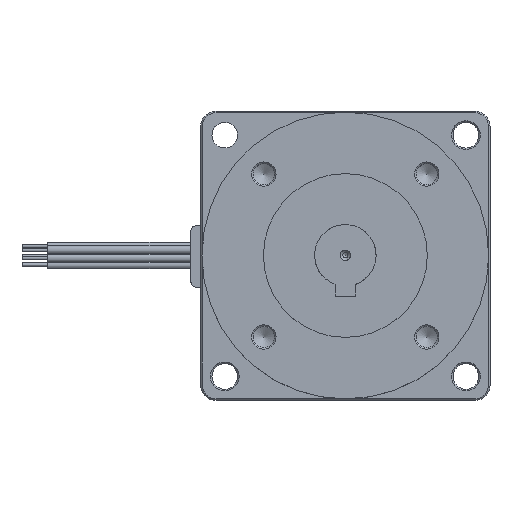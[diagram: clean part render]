
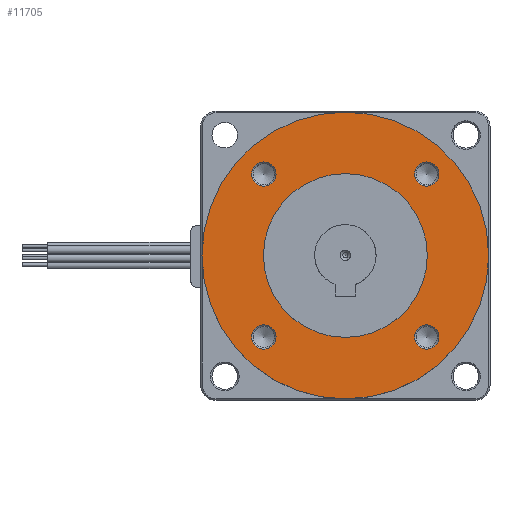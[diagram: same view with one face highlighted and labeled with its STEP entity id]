
A CAD part, top view. The second image highlights one B-rep face of the part: STEP entity #11705.
In plain terms, the highlighted planar face has unit normal (0, 0, 1).
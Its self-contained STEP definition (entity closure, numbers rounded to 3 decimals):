
#318=CIRCLE('',#12284,2.367);
#319=CIRCLE('',#12286,28.);
#320=CIRCLE('',#12287,2.367);
#321=CIRCLE('',#12288,2.367);
#322=CIRCLE('',#12289,16.);
#323=CIRCLE('',#12290,2.367);
#565=FACE_BOUND('',#1849,.T.);
#566=FACE_BOUND('',#1850,.T.);
#567=FACE_BOUND('',#1851,.T.);
#568=FACE_BOUND('',#1852,.T.);
#569=FACE_BOUND('',#1853,.T.);
#1133=FACE_OUTER_BOUND('',#1848,.T.);
#1848=EDGE_LOOP('',(#9536));
#1849=EDGE_LOOP('',(#9537));
#1850=EDGE_LOOP('',(#9538));
#1851=EDGE_LOOP('',(#9539));
#1852=EDGE_LOOP('',(#9540));
#1853=EDGE_LOOP('',(#9541));
#5505=VERTEX_POINT('',#19448);
#5506=VERTEX_POINT('',#19451);
#5507=VERTEX_POINT('',#19453);
#5508=VERTEX_POINT('',#19455);
#5509=VERTEX_POINT('',#19457);
#5510=VERTEX_POINT('',#19459);
#6940=EDGE_CURVE('',#5505,#5505,#318,.T.);
#6941=EDGE_CURVE('',#5506,#5506,#319,.T.);
#6942=EDGE_CURVE('',#5507,#5507,#320,.T.);
#6943=EDGE_CURVE('',#5508,#5508,#321,.T.);
#6944=EDGE_CURVE('',#5509,#5509,#322,.T.);
#6945=EDGE_CURVE('',#5510,#5510,#323,.T.);
#9536=ORIENTED_EDGE('',*,*,#6941,.T.);
#9537=ORIENTED_EDGE('',*,*,#6942,.F.);
#9538=ORIENTED_EDGE('',*,*,#6943,.F.);
#9539=ORIENTED_EDGE('',*,*,#6944,.T.);
#9540=ORIENTED_EDGE('',*,*,#6945,.F.);
#9541=ORIENTED_EDGE('',*,*,#6940,.F.);
#11172=PLANE('',#12285);
#11705=ADVANCED_FACE('',(#1133,#565,#566,#567,#568,#569),#11172,.T.);
#12284=AXIS2_PLACEMENT_3D('',#19449,#14049,#14050);
#12285=AXIS2_PLACEMENT_3D('',#19450,#14051,#14052);
#12286=AXIS2_PLACEMENT_3D('',#19452,#14053,#14054);
#12287=AXIS2_PLACEMENT_3D('',#19454,#14055,#14056);
#12288=AXIS2_PLACEMENT_3D('',#19456,#14057,#14058);
#12289=AXIS2_PLACEMENT_3D('',#19458,#14059,#14060);
#12290=AXIS2_PLACEMENT_3D('',#19460,#14061,#14062);
#14049=DIRECTION('center_axis',(0.,0.,1.));
#14050=DIRECTION('ref_axis',(0.,1.,0.));
#14051=DIRECTION('center_axis',(0.,0.,1.));
#14052=DIRECTION('ref_axis',(1.,0.,0.));
#14053=DIRECTION('center_axis',(0.,0.,1.));
#14054=DIRECTION('ref_axis',(-1.,0.,0.));
#14055=DIRECTION('center_axis',(0.,0.,1.));
#14056=DIRECTION('ref_axis',(1.,0.,0.));
#14057=DIRECTION('center_axis',(0.,0.,1.));
#14058=DIRECTION('ref_axis',(-1.,0.,0.));
#14059=DIRECTION('center_axis',(0.,0.,-1.));
#14060=DIRECTION('ref_axis',(-1.,0.,0.));
#14061=DIRECTION('center_axis',(0.,0.,1.));
#14062=DIRECTION('ref_axis',(0.,-1.,0.));
#19448=CARTESIAN_POINT('',(12.34,41.793,46.7));
#19449=CARTESIAN_POINT('Origin',(12.34,44.16,46.7));
#19450=CARTESIAN_POINT('Origin',(28.25,28.25,46.7));
#19451=CARTESIAN_POINT('',(56.25,28.25,46.7));
#19452=CARTESIAN_POINT('Origin',(28.25,28.25,46.7));
#19453=CARTESIAN_POINT('',(41.793,44.16,46.7));
#19454=CARTESIAN_POINT('Origin',(44.16,44.16,46.7));
#19455=CARTESIAN_POINT('',(14.707,12.34,46.7));
#19456=CARTESIAN_POINT('Origin',(12.34,12.34,46.7));
#19457=CARTESIAN_POINT('',(44.25,28.25,46.7));
#19458=CARTESIAN_POINT('Origin',(28.25,28.25,46.7));
#19459=CARTESIAN_POINT('',(44.16,14.707,46.7));
#19460=CARTESIAN_POINT('Origin',(44.16,12.34,46.7));
